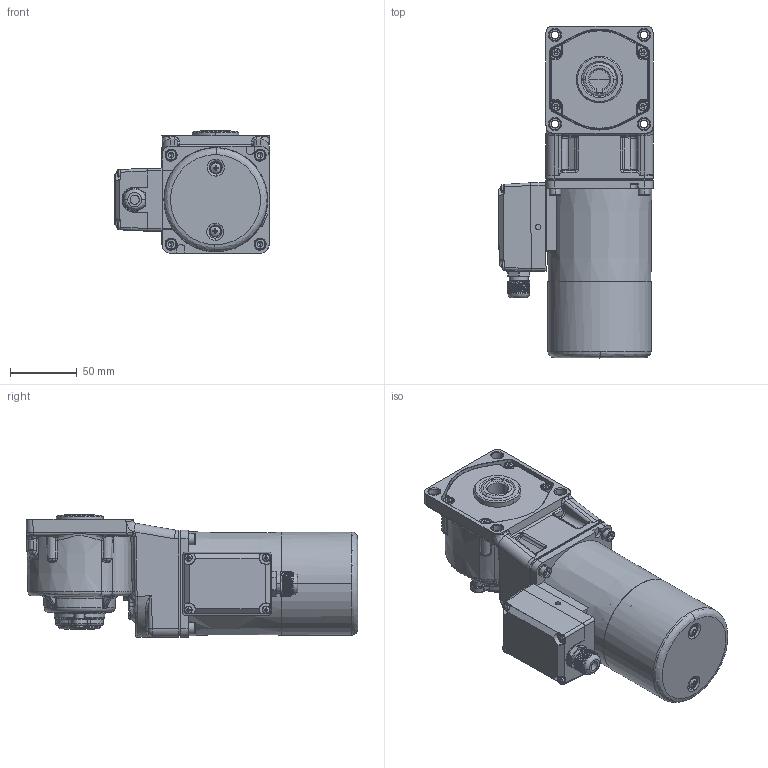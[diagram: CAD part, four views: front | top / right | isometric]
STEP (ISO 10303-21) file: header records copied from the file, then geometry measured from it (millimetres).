
FILE_DESCRIPTION (( 'STEP AP203' ), '1' );
FILE_NAME ('4RK25GN-CMT(4GN3RC-180RC)ÐÂ.STEP', '2023-05-24T05:00:29', ( 'Windows User' ), ( 'P R C' ), 'SwSTEP 2.0', 'SolidWorks 2019', '' );
FILE_SCHEMA (( 'CONFIG_CONTROL_DESIGN' ));
Length unit declared in the file: millimetre
Products named in the file (19): 80______^4RK25GN-CMT(4GN3RC-180RC)陔(2)_4RK25GN-CMT(4GN3RC-180RC)陔; 葩璃 (3) ^4RK25GN-CMT(4GN3RC-180RC)陔(2)_4RK25GN-CMT(4GN3RC-180RC)陔; 80TSJK; 葩璃 (2) ^4RK25GN-CMT(4GN3RC-180RC)陔(2)_4RK25GN-CMT(4GN3RC-180RC)陔; 80________^4RK25GN-CMT(4GN3RC-180RC)陔(2)_4RK25GN-CMT(4GN3RC-180RC)陔; ^_80TSJXH_80TSJK; hexagon socket head cap screws gb_GB_FASTENER_SCREWS_HSHCS M4X12-N^4RK25GN-CMT(4GN3RC-180RC)ÐÂ(2)_4RK25GN-CMT(4GN3RC-180RC)ÐÂ; 葩璃 (4) ^4RK25GN-CMT(4GN3RC-180RC)陔(2)_4RK25GN-CMT(4GN3RC-180RC)陔; 4RK25GN-CMT(4GN3RC-180RC)陔; 80__________^4RK25GN-CMT(4GN3RC-180RC)陔(2)_4RK25GN-CMT(4GN3RC-180RC)陔; 葩璃 (2) ^_80TSJXH_80TSJK; zd-4gn1000rc-504-001-20211209____________^4RK25GN-CMT(4GN3RC-180RC)陔(2)_4RK25GN-CMT(4GN3RC-180RC)陔; ^80TSJXH_80TSJK; 葩璃 (3) ^_80TSJXH_80TSJK; cross recessed pan head screws gb_GB_CROSS_SCREWS_TYPE1 M3X6-6  H type-N^4RK25GN-CMT(4GN3RC-180RC)ÐÂ(2)_4RK25GN-CMT(4GN3RC-180RC)ÐÂ; 80TSJXH^80TSJK; ^4RK25GN-CMT(4GN3RC-180RC)陔(2)_4RK25GN-CMT(4GN3RC-180RC)陔; 80TSJXHJK^80TSJK; 4RK25GN-CMT(4GN3RC-180RC)陔(2)^4RK25GN-CMT(4GN3RC-180RC)陔
Assembly tree (29 placements, depth 5):
  4RK25GN-CMT(4GN3RC-180RC)陔
    4RK25GN-CMT(4GN3RC-180RC)陔(2)^4RK25GN-CMT(4GN3RC-180RC)陔
      80______^4RK25GN-CMT(4GN3RC-180RC)陔(2)_4RK25GN-CMT(4GN3RC-180RC)陔
      zd-4gn1000rc-504-001-20211209____________^4RK25GN-CMT(4GN3RC-180RC)陔(2)_4RK25GN-CMT(4GN3RC-180RC)陔
      cross recessed pan head screws gb_GB_CROSS_SCREWS_TYPE1 M3X6-6  H type-N^4RK25GN-CMT(4GN3RC-180RC)ÐÂ(2)_4RK25GN-CMT(4GN3RC-180RC)ÐÂ  x2
      80________^4RK25GN-CMT(4GN3RC-180RC)陔(2)_4RK25GN-CMT(4GN3RC-180RC)陔
      80__________^4RK25GN-CMT(4GN3RC-180RC)陔(2)_4RK25GN-CMT(4GN3RC-180RC)陔
      hexagon socket head cap screws gb_GB_FASTENER_SCREWS_HSHCS M4X12-N^4RK25GN-CMT(4GN3RC-180RC)ÐÂ(2)_4RK25GN-CMT(4GN3RC-180RC)ÐÂ  x4
      ^4RK25GN-CMT(4GN3RC-180RC)陔(2)_4RK25GN-CMT(4GN3RC-180RC)陔  x4
      葩璃 (2) ^4RK25GN-CMT(4GN3RC-180RC)陔(2)_4RK25GN-CMT(4GN3RC-180RC)陔  x2
      葩璃 (3) ^4RK25GN-CMT(4GN3RC-180RC)陔(2)_4RK25GN-CMT(4GN3RC-180RC)陔
      葩璃 (4) ^4RK25GN-CMT(4GN3RC-180RC)陔(2)_4RK25GN-CMT(4GN3RC-180RC)陔
    80TSJK
      80TSJXH^80TSJK
        ^80TSJXH_80TSJK
          ^_80TSJXH_80TSJK
          葩璃 (2) ^_80TSJXH_80TSJK
          葩璃 (3) ^_80TSJXH_80TSJK  x4
      80TSJXHJK^80TSJK
Bounding box: 115.74 x 247.79 x 91.5 mm (x, y, z)
Volume: 800329.5 mm3; surface area: 213955.1 mm2
Topology: 25 solids, 27 shells, 3408 faces, 7791 edges, 4408 vertices
Faces by surface type: cone 1309, cylinder 1041, plane 524, bspline 460, torus 54, sphere 20
Entity records: 93160 total; most frequent: CARTESIAN_POINT 48818, ORIENTED_EDGE 9394, DIRECTION 7958, EDGE_CURVE 4697, AXIS2_PLACEMENT_3D 3160, VERTEX_POINT 2797, EDGE_LOOP 2124, ADVANCED_FACE 2007
